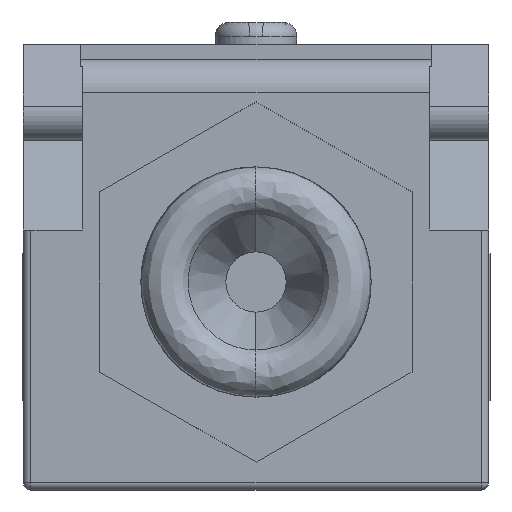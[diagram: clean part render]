
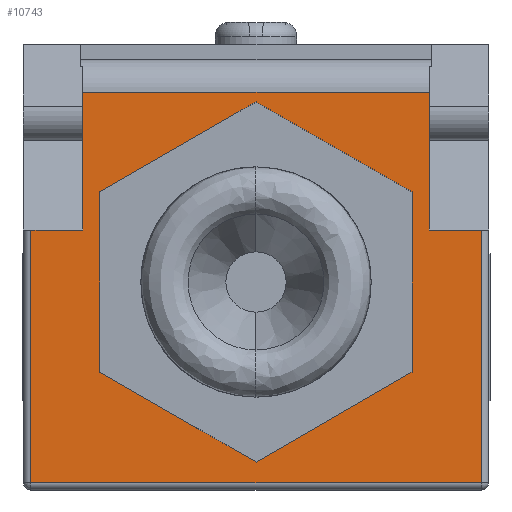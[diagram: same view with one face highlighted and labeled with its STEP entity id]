
A CAD part, front view. The second image highlights one B-rep face of the part: STEP entity #10743.
In plain terms, the highlighted planar face has unit normal (0, -1, 0).
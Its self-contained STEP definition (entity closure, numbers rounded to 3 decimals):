
#408 = LINE ( 'NONE', #409, #11140 ) ;
#409 = CARTESIAN_POINT ( 'NONE',  ( -11.65, -30., 6.8 ) ) ;
#410 = DIRECTION ( 'NONE',  ( 0., 0., -1. ) ) ;
#411 = LINE ( 'NONE', #412, #11139 ) ;
#412 = CARTESIAN_POINT ( 'NONE',  ( -15.65, -30., 16.071 ) ) ;
#413 = DIRECTION ( 'NONE',  ( -1., 0., 0. ) ) ;
#414 = LINE ( 'NONE', #415, #11137 ) ;
#415 = CARTESIAN_POINT ( 'NONE',  ( -11.65, -30., 6.8 ) ) ;
#416 = DIRECTION ( 'NONE',  ( -1., 0., 0. ) ) ;
#417 = LINE ( 'NONE', #418, #11135 ) ;
#418 = CARTESIAN_POINT ( 'NONE',  ( -15.15, -30., 10.7 ) ) ;
#419 = DIRECTION ( 'NONE',  ( 0., 0., -1. ) ) ;
#420 = LINE ( 'NONE', #421, #11133 ) ;
#421 = CARTESIAN_POINT ( 'NONE',  ( 15.65, -30., -10.2 ) ) ;
#422 = DIRECTION ( 'NONE',  ( 1., 0., 0. ) ) ;
#423 = LINE ( 'NONE', #424, #11130 ) ;
#424 = CARTESIAN_POINT ( 'NONE',  ( 15.15, -30., 10.7 ) ) ;
#425 = DIRECTION ( 'NONE',  ( 0., 0., 1. ) ) ;
#426 = LINE ( 'NONE', #427, #11128 ) ;
#427 = CARTESIAN_POINT ( 'NONE',  ( 10.5, -30., -2.762 ) ) ;
#428 = DIRECTION ( 'NONE',  ( 0., 0., 1. ) ) ;
#429 = LINE ( 'NONE', #430, #11126 ) ;
#430 = CARTESIAN_POINT ( 'NONE',  ( 10.5, -30., 9.362 ) ) ;
#431 = DIRECTION ( 'NONE',  ( -0.866, 0., 0.5 ) ) ;
#432 = LINE ( 'NONE', #433, #11123 ) ;
#433 = CARTESIAN_POINT ( 'NONE',  ( 0., -30., 15.424 ) ) ;
#434 = DIRECTION ( 'NONE',  ( -0.866, 0., -0.5 ) ) ;
#435 = LINE ( 'NONE', #436, #11104 ) ;
#436 = CARTESIAN_POINT ( 'NONE',  ( -10.5, -30., -2.762 ) ) ;
#437 = DIRECTION ( 'NONE',  ( 0.866, 0., -0.5 ) ) ;
#438 = LINE ( 'NONE', #439, #11103 ) ;
#439 = CARTESIAN_POINT ( 'NONE',  ( 11.65, -30., 6.8 ) ) ;
#440 = DIRECTION ( 'NONE',  ( 0., 0., -1. ) ) ;
#441 = LINE ( 'NONE', #442, #11101 ) ;
#442 = CARTESIAN_POINT ( 'NONE',  ( -10.5, -30., 9.362 ) ) ;
#443 = DIRECTION ( 'NONE',  ( 0., 0., -1. ) ) ;
#444 = LINE ( 'NONE', #445, #11099 ) ;
#445 = CARTESIAN_POINT ( 'NONE',  ( 11.65, -30., 6.8 ) ) ;
#446 = DIRECTION ( 'NONE',  ( 1., 0., 0. ) ) ;
#468 = LINE ( 'NONE', #469, #11087 ) ;
#469 = CARTESIAN_POINT ( 'NONE',  ( 0., -30., -8.824 ) ) ;
#470 = DIRECTION ( 'NONE',  ( 0.866, 0., 0.5 ) ) ;
#667 = PLANE ( 'NONE',  #8762 ) ;
#668 = CARTESIAN_POINT ( 'NONE',  ( -15.65, -30., 19.3 ) ) ;
#669 = DIRECTION ( 'NONE',  ( 0., 1., 0. ) ) ;
#670 = DIRECTION ( 'NONE',  ( 0., 0., 1. ) ) ;
#3418 = EDGE_LOOP ( 'NONE', ( #4354, #4352, #4353, #4351, #4350, #4349 ) ) ;
#3419 = EDGE_LOOP ( 'NONE', ( #4339, #4344, #4343, #4345, #4346, #4347, #4348, #4355 ) ) ;
#4339 = ORIENTED_EDGE ( 'NONE', *, *, #10667, .T. ) ;
#4343 = ORIENTED_EDGE ( 'NONE', *, *, #10668, .T. ) ;
#4344 = ORIENTED_EDGE ( 'NONE', *, *, #10666, .T. ) ;
#4345 = ORIENTED_EDGE ( 'NONE', *, *, #10669, .T. ) ;
#4346 = ORIENTED_EDGE ( 'NONE', *, *, #10670, .T. ) ;
#4347 = ORIENTED_EDGE ( 'NONE', *, *, #10671, .T. ) ;
#4348 = ORIENTED_EDGE ( 'NONE', *, *, #10678, .F. ) ;
#4349 = ORIENTED_EDGE ( 'NONE', *, *, #10686, .F. ) ;
#4350 = ORIENTED_EDGE ( 'NONE', *, *, #10672, .F. ) ;
#4351 = ORIENTED_EDGE ( 'NONE', *, *, #10673, .F. ) ;
#4352 = ORIENTED_EDGE ( 'NONE', *, *, #10677, .F. ) ;
#4353 = ORIENTED_EDGE ( 'NONE', *, *, #10674, .F. ) ;
#4354 = ORIENTED_EDGE ( 'NONE', *, *, #10675, .F. ) ;
#4355 = ORIENTED_EDGE ( 'NONE', *, *, #10676, .F. ) ;
#4568 = VERTEX_POINT ( 'NONE', #5201 ) ;
#4569 = VERTEX_POINT ( 'NONE', #5202 ) ;
#4570 = VERTEX_POINT ( 'NONE', #5203 ) ;
#4571 = VERTEX_POINT ( 'NONE', #5204 ) ;
#4572 = VERTEX_POINT ( 'NONE', #5205 ) ;
#4573 = VERTEX_POINT ( 'NONE', #5206 ) ;
#4574 = VERTEX_POINT ( 'NONE', #5207 ) ;
#4575 = VERTEX_POINT ( 'NONE', #5208 ) ;
#4576 = VERTEX_POINT ( 'NONE', #5209 ) ;
#4577 = VERTEX_POINT ( 'NONE', #5210 ) ;
#4578 = VERTEX_POINT ( 'NONE', #5211 ) ;
#4579 = VERTEX_POINT ( 'NONE', #5212 ) ;
#4580 = VERTEX_POINT ( 'NONE', #5213 ) ;
#4581 = VERTEX_POINT ( 'NONE', #5214 ) ;
#5201 = CARTESIAN_POINT ( 'NONE',  ( 10.5, -30., -2.762 ) ) ;
#5202 = CARTESIAN_POINT ( 'NONE',  ( 10.5, -30., 9.362 ) ) ;
#5203 = CARTESIAN_POINT ( 'NONE',  ( 0., -30., 15.424 ) ) ;
#5204 = CARTESIAN_POINT ( 'NONE',  ( -10.5, -30., 9.362 ) ) ;
#5205 = CARTESIAN_POINT ( 'NONE',  ( 0., -30., -8.824 ) ) ;
#5206 = CARTESIAN_POINT ( 'NONE',  ( -10.5, -30., -2.762 ) ) ;
#5207 = CARTESIAN_POINT ( 'NONE',  ( 11.65, -30., 6.8 ) ) ;
#5208 = CARTESIAN_POINT ( 'NONE',  ( 15.15, -30., 6.8 ) ) ;
#5209 = CARTESIAN_POINT ( 'NONE',  ( 15.15, -30., -10.2 ) ) ;
#5210 = CARTESIAN_POINT ( 'NONE',  ( -15.15, -30., -10.2 ) ) ;
#5211 = CARTESIAN_POINT ( 'NONE',  ( -15.15, -30., 6.8 ) ) ;
#5212 = CARTESIAN_POINT ( 'NONE',  ( -11.65, -30., 6.8 ) ) ;
#5213 = CARTESIAN_POINT ( 'NONE',  ( -11.65, -30., 16.071 ) ) ;
#5214 = CARTESIAN_POINT ( 'NONE',  ( 11.65, -30., 16.071 ) ) ;
#8762 = AXIS2_PLACEMENT_3D ( 'NONE', #668, #669, #670 ) ;
#8764 = FACE_BOUND ( 'NONE', #3418, .T. ) ;
#8767 = FACE_OUTER_BOUND ( 'NONE', #3419, .T. ) ;
#10666 = EDGE_CURVE ( 'NONE', #4580, #4579, #408, .T. ) ;
#10667 = EDGE_CURVE ( 'NONE', #4581, #4580, #411, .T. ) ;
#10668 = EDGE_CURVE ( 'NONE', #4579, #4578, #414, .T. ) ;
#10669 = EDGE_CURVE ( 'NONE', #4578, #4577, #417, .T. ) ;
#10670 = EDGE_CURVE ( 'NONE', #4577, #4576, #420, .T. ) ;
#10671 = EDGE_CURVE ( 'NONE', #4576, #4575, #423, .T. ) ;
#10672 = EDGE_CURVE ( 'NONE', #4568, #4569, #426, .T. ) ;
#10673 = EDGE_CURVE ( 'NONE', #4569, #4570, #429, .T. ) ;
#10674 = EDGE_CURVE ( 'NONE', #4570, #4571, #432, .T. ) ;
#10675 = EDGE_CURVE ( 'NONE', #4573, #4572, #435, .T. ) ;
#10676 = EDGE_CURVE ( 'NONE', #4581, #4574, #438, .T. ) ;
#10677 = EDGE_CURVE ( 'NONE', #4571, #4573, #441, .T. ) ;
#10678 = EDGE_CURVE ( 'NONE', #4574, #4575, #444, .T. ) ;
#10686 = EDGE_CURVE ( 'NONE', #4572, #4568, #468, .T. ) ;
#10743 = ADVANCED_FACE ( 'NONE', ( #8767, #8764 ), #667, .F. ) ;
#11087 = VECTOR ( 'NONE', #470, 1000. ) ;
#11099 = VECTOR ( 'NONE', #446, 1000. ) ;
#11101 = VECTOR ( 'NONE', #443, 1000. ) ;
#11103 = VECTOR ( 'NONE', #440, 1000. ) ;
#11104 = VECTOR ( 'NONE', #437, 1000. ) ;
#11123 = VECTOR ( 'NONE', #434, 1000. ) ;
#11126 = VECTOR ( 'NONE', #431, 1000. ) ;
#11128 = VECTOR ( 'NONE', #428, 1000. ) ;
#11130 = VECTOR ( 'NONE', #425, 1000. ) ;
#11133 = VECTOR ( 'NONE', #422, 1000. ) ;
#11135 = VECTOR ( 'NONE', #419, 1000. ) ;
#11137 = VECTOR ( 'NONE', #416, 1000. ) ;
#11139 = VECTOR ( 'NONE', #413, 1000. ) ;
#11140 = VECTOR ( 'NONE', #410, 1000. ) ;
